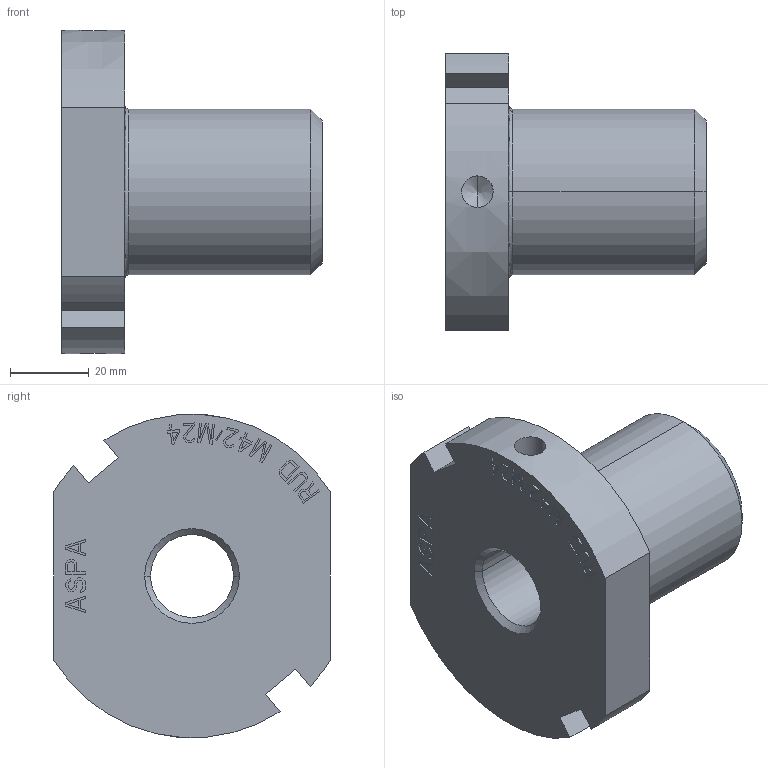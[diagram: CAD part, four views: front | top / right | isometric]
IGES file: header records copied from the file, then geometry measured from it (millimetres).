
Start section:  PTC IGES file: 001-m32236-p-6.igs
Global section: file name: 001-m32236-p-6.igs; native system: Pro/ENGINEER by Parametric Technology Corporation; preprocessor: 2011490; author: anja.joas; organization: Unknown; date: 20190716.073757; units: millimetre
Bounding box: 66 x 70 x 82 mm (x, y, z)
Volume: 121105.2 mm3; surface area: 69535.2 mm2
Topology: 1 solids, 2 shells, 352 faces, 996 edges, 686 vertices
Faces by surface type: bspline 324, revolution 28
